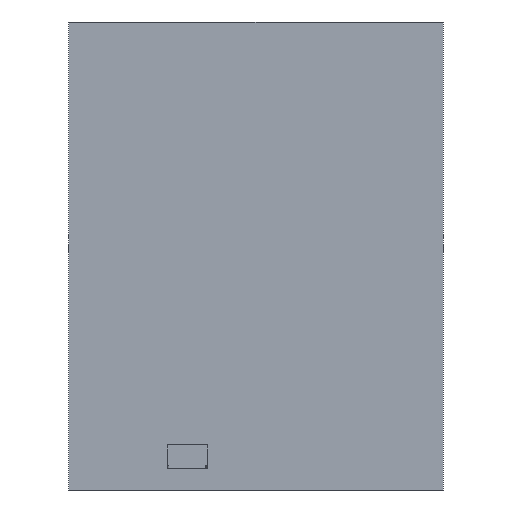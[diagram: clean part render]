
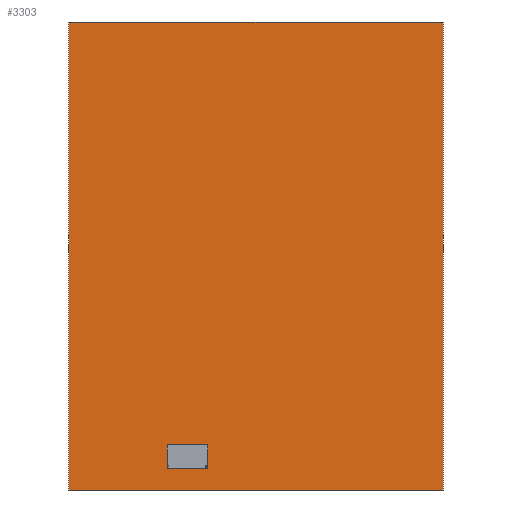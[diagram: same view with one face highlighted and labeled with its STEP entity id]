
A CAD part, front view. The second image highlights one B-rep face of the part: STEP entity #3303.
In plain terms, the highlighted planar face has unit normal (0, -1, 0).
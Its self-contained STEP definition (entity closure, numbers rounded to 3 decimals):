
#100 = PLANE('',#101);
#101 = AXIS2_PLACEMENT_3D('',#102,#103,#104);
#102 = CARTESIAN_POINT('',(52.,-127.,150.));
#103 = DIRECTION('',(0.,0.,1.));
#104 = DIRECTION('',(1.,0.,0.));
#808 = PLANE('',#809);
#809 = AXIS2_PLACEMENT_3D('',#810,#811,#812);
#810 = CARTESIAN_POINT('',(-28.5,-136.,14.44));
#811 = DIRECTION('',(0.,0.,1.));
#812 = DIRECTION('',(1.,0.,0.));
#834 = PLANE('',#835);
#835 = AXIS2_PLACEMENT_3D('',#836,#837,#838);
#836 = CARTESIAN_POINT('',(-28.5,-136.,6.94));
#837 = DIRECTION('',(1.,0.,0.));
#838 = DIRECTION('',(0.,0.,1.));
#860 = PLANE('',#861);
#861 = AXIS2_PLACEMENT_3D('',#862,#863,#864);
#862 = CARTESIAN_POINT('',(-28.5,-136.,6.94));
#863 = DIRECTION('',(0.,0.,1.));
#864 = DIRECTION('',(1.,0.,0.));
#884 = PLANE('',#885);
#885 = AXIS2_PLACEMENT_3D('',#886,#887,#888);
#886 = CARTESIAN_POINT('',(-15.5,-136.,6.94));
#887 = DIRECTION('',(1.,0.,0.));
#888 = DIRECTION('',(0.,0.,1.));
#1100 = VERTEX_POINT('',#1101);
#1101 = CARTESIAN_POINT('',(-60.,-133.,150.));
#1115 = PLANE('',#1116);
#1116 = AXIS2_PLACEMENT_3D('',#1117,#1118,#1119);
#1117 = CARTESIAN_POINT('',(-60.,-133.,0.));
#1118 = DIRECTION('',(1.,0.,0.));
#1119 = DIRECTION('',(0.,0.,1.));
#1127 = EDGE_CURVE('',#1100,#1128,#1130,.T.);
#1128 = VERTEX_POINT('',#1129);
#1129 = CARTESIAN_POINT('',(60.,-133.,150.));
#1130 = SURFACE_CURVE('',#1131,(#1135,#1142),.PCURVE_S1.);
#1131 = LINE('',#1132,#1133);
#1132 = CARTESIAN_POINT('',(-60.,-133.,150.));
#1133 = VECTOR('',#1134,1.);
#1134 = DIRECTION('',(1.,0.,0.));
#1135 = PCURVE('',#100,#1136);
#1136 = DEFINITIONAL_REPRESENTATION('',(#1137),#1141);
#1137 = LINE('',#1138,#1139);
#1138 = CARTESIAN_POINT('',(-112.,-6.));
#1139 = VECTOR('',#1140,1.);
#1140 = DIRECTION('',(1.,0.));
#1141 = ( GEOMETRIC_REPRESENTATION_CONTEXT(2) 
PARAMETRIC_REPRESENTATION_CONTEXT() REPRESENTATION_CONTEXT('2D SPACE',''
  ) );
#1142 = PCURVE('',#1143,#1148);
#1143 = PLANE('',#1144);
#1144 = AXIS2_PLACEMENT_3D('',#1145,#1146,#1147);
#1145 = CARTESIAN_POINT('',(-60.,-133.,0.));
#1146 = DIRECTION('',(0.,1.,0.));
#1147 = DIRECTION('',(0.,0.,1.));
#1148 = DEFINITIONAL_REPRESENTATION('',(#1149),#1153);
#1149 = LINE('',#1150,#1151);
#1150 = CARTESIAN_POINT('',(150.,0.));
#1151 = VECTOR('',#1152,1.);
#1152 = DIRECTION('',(0.,1.));
#1153 = ( GEOMETRIC_REPRESENTATION_CONTEXT(2) 
PARAMETRIC_REPRESENTATION_CONTEXT() REPRESENTATION_CONTEXT('2D SPACE',''
  ) );
#1171 = PLANE('',#1172);
#1172 = AXIS2_PLACEMENT_3D('',#1173,#1174,#1175);
#1173 = CARTESIAN_POINT('',(60.,-133.,0.));
#1174 = DIRECTION('',(1.,0.,0.));
#1175 = DIRECTION('',(0.,0.,1.));
#2759 = VERTEX_POINT('',#2760);
#2760 = CARTESIAN_POINT('',(-28.5,-133.,14.44));
#2781 = EDGE_CURVE('',#2759,#2782,#2784,.T.);
#2782 = VERTEX_POINT('',#2783);
#2783 = CARTESIAN_POINT('',(-15.5,-133.,14.44));
#2784 = SURFACE_CURVE('',#2785,(#2789,#2795),.PCURVE_S1.);
#2785 = LINE('',#2786,#2787);
#2786 = CARTESIAN_POINT('',(-44.25,-133.,14.44));
#2787 = VECTOR('',#2788,1.);
#2788 = DIRECTION('',(1.,0.,0.));
#2789 = PCURVE('',#808,#2790);
#2790 = DEFINITIONAL_REPRESENTATION('',(#2791),#2794);
#2791 = B_SPLINE_CURVE_WITH_KNOTS('',1,(#2792,#2793),.UNSPECIFIED.,.F.,
  .F.,(2,2),(15.75,28.75),.PIECEWISE_BEZIER_KNOTS.);
#2792 = CARTESIAN_POINT('',(0.,3.));
#2793 = CARTESIAN_POINT('',(13.,3.));
#2794 = ( GEOMETRIC_REPRESENTATION_CONTEXT(2) 
PARAMETRIC_REPRESENTATION_CONTEXT() REPRESENTATION_CONTEXT('2D SPACE',''
  ) );
#2795 = PCURVE('',#1143,#2796);
#2796 = DEFINITIONAL_REPRESENTATION('',(#2797),#2800);
#2797 = B_SPLINE_CURVE_WITH_KNOTS('',1,(#2798,#2799),.UNSPECIFIED.,.F.,
  .F.,(2,2),(15.75,28.75),.PIECEWISE_BEZIER_KNOTS.);
#2798 = CARTESIAN_POINT('',(14.44,31.5));
#2799 = CARTESIAN_POINT('',(14.44,44.5));
#2800 = ( GEOMETRIC_REPRESENTATION_CONTEXT(2) 
PARAMETRIC_REPRESENTATION_CONTEXT() REPRESENTATION_CONTEXT('2D SPACE',''
  ) );
#2828 = EDGE_CURVE('',#2759,#2829,#2831,.T.);
#2829 = VERTEX_POINT('',#2830);
#2830 = CARTESIAN_POINT('',(-28.5,-133.,6.94));
#2831 = SURFACE_CURVE('',#2832,(#2836,#2842),.PCURVE_S1.);
#2832 = LINE('',#2833,#2834);
#2833 = CARTESIAN_POINT('',(-28.5,-133.,3.47));
#2834 = VECTOR('',#2835,1.);
#2835 = DIRECTION('',(0.,0.,-1.));
#2836 = PCURVE('',#834,#2837);
#2837 = DEFINITIONAL_REPRESENTATION('',(#2838),#2841);
#2838 = B_SPLINE_CURVE_WITH_KNOTS('',1,(#2839,#2840),.UNSPECIFIED.,.F.,
  .F.,(2,2),(-10.97,-3.47),.PIECEWISE_BEZIER_KNOTS.);
#2839 = CARTESIAN_POINT('',(7.5,-3.));
#2840 = CARTESIAN_POINT('',(0.,-3.));
#2841 = ( GEOMETRIC_REPRESENTATION_CONTEXT(2) 
PARAMETRIC_REPRESENTATION_CONTEXT() REPRESENTATION_CONTEXT('2D SPACE',''
  ) );
#2842 = PCURVE('',#1143,#2843);
#2843 = DEFINITIONAL_REPRESENTATION('',(#2844),#2847);
#2844 = B_SPLINE_CURVE_WITH_KNOTS('',1,(#2845,#2846),.UNSPECIFIED.,.F.,
  .F.,(2,2),(-10.97,-3.47),.PIECEWISE_BEZIER_KNOTS.);
#2845 = CARTESIAN_POINT('',(14.44,31.5));
#2846 = CARTESIAN_POINT('',(6.94,31.5));
#2847 = ( GEOMETRIC_REPRESENTATION_CONTEXT(2) 
PARAMETRIC_REPRESENTATION_CONTEXT() REPRESENTATION_CONTEXT('2D SPACE',''
  ) );
#2875 = EDGE_CURVE('',#2782,#2876,#2878,.T.);
#2876 = VERTEX_POINT('',#2877);
#2877 = CARTESIAN_POINT('',(-15.5,-133.,6.94));
#2878 = SURFACE_CURVE('',#2879,(#2883,#2889),.PCURVE_S1.);
#2879 = LINE('',#2880,#2881);
#2880 = CARTESIAN_POINT('',(-15.5,-133.,3.47));
#2881 = VECTOR('',#2882,1.);
#2882 = DIRECTION('',(0.,0.,-1.));
#2883 = PCURVE('',#884,#2884);
#2884 = DEFINITIONAL_REPRESENTATION('',(#2885),#2888);
#2885 = B_SPLINE_CURVE_WITH_KNOTS('',1,(#2886,#2887),.UNSPECIFIED.,.F.,
  .F.,(2,2),(-10.97,-3.47),.PIECEWISE_BEZIER_KNOTS.);
#2886 = CARTESIAN_POINT('',(7.5,-3.));
#2887 = CARTESIAN_POINT('',(0.,-3.));
#2888 = ( GEOMETRIC_REPRESENTATION_CONTEXT(2) 
PARAMETRIC_REPRESENTATION_CONTEXT() REPRESENTATION_CONTEXT('2D SPACE',''
  ) );
#2889 = PCURVE('',#1143,#2890);
#2890 = DEFINITIONAL_REPRESENTATION('',(#2891),#2894);
#2891 = B_SPLINE_CURVE_WITH_KNOTS('',1,(#2892,#2893),.UNSPECIFIED.,.F.,
  .F.,(2,2),(-10.97,-3.47),.PIECEWISE_BEZIER_KNOTS.);
#2892 = CARTESIAN_POINT('',(14.44,44.5));
#2893 = CARTESIAN_POINT('',(6.94,44.5));
#2894 = ( GEOMETRIC_REPRESENTATION_CONTEXT(2) 
PARAMETRIC_REPRESENTATION_CONTEXT() REPRESENTATION_CONTEXT('2D SPACE',''
  ) );
#2922 = EDGE_CURVE('',#2829,#2876,#2923,.T.);
#2923 = SURFACE_CURVE('',#2924,(#2928,#2934),.PCURVE_S1.);
#2924 = LINE('',#2925,#2926);
#2925 = CARTESIAN_POINT('',(-44.25,-133.,6.94));
#2926 = VECTOR('',#2927,1.);
#2927 = DIRECTION('',(1.,0.,0.));
#2928 = PCURVE('',#860,#2929);
#2929 = DEFINITIONAL_REPRESENTATION('',(#2930),#2933);
#2930 = B_SPLINE_CURVE_WITH_KNOTS('',1,(#2931,#2932),.UNSPECIFIED.,.F.,
  .F.,(2,2),(15.75,28.75),.PIECEWISE_BEZIER_KNOTS.);
#2931 = CARTESIAN_POINT('',(0.,3.));
#2932 = CARTESIAN_POINT('',(13.,3.));
#2933 = ( GEOMETRIC_REPRESENTATION_CONTEXT(2) 
PARAMETRIC_REPRESENTATION_CONTEXT() REPRESENTATION_CONTEXT('2D SPACE',''
  ) );
#2934 = PCURVE('',#1143,#2935);
#2935 = DEFINITIONAL_REPRESENTATION('',(#2936),#2939);
#2936 = B_SPLINE_CURVE_WITH_KNOTS('',1,(#2937,#2938),.UNSPECIFIED.,.F.,
  .F.,(2,2),(15.75,28.75),.PIECEWISE_BEZIER_KNOTS.);
#2937 = CARTESIAN_POINT('',(6.94,31.5));
#2938 = CARTESIAN_POINT('',(6.94,44.5));
#2939 = ( GEOMETRIC_REPRESENTATION_CONTEXT(2) 
PARAMETRIC_REPRESENTATION_CONTEXT() REPRESENTATION_CONTEXT('2D SPACE',''
  ) );
#3032 = PLANE('',#3033);
#3033 = AXIS2_PLACEMENT_3D('',#3034,#3035,#3036);
#3034 = CARTESIAN_POINT('',(-60.,-133.,0.));
#3035 = DIRECTION('',(0.,0.,1.));
#3036 = DIRECTION('',(1.,0.,0.));
#3258 = EDGE_CURVE('',#3259,#1128,#3261,.T.);
#3259 = VERTEX_POINT('',#3260);
#3260 = CARTESIAN_POINT('',(60.,-133.,0.));
#3261 = SURFACE_CURVE('',#3262,(#3266,#3273),.PCURVE_S1.);
#3262 = LINE('',#3263,#3264);
#3263 = CARTESIAN_POINT('',(60.,-133.,0.));
#3264 = VECTOR('',#3265,1.);
#3265 = DIRECTION('',(0.,0.,1.));
#3266 = PCURVE('',#1171,#3267);
#3267 = DEFINITIONAL_REPRESENTATION('',(#3268),#3272);
#3268 = LINE('',#3269,#3270);
#3269 = CARTESIAN_POINT('',(0.,0.));
#3270 = VECTOR('',#3271,1.);
#3271 = DIRECTION('',(1.,0.));
#3272 = ( GEOMETRIC_REPRESENTATION_CONTEXT(2) 
PARAMETRIC_REPRESENTATION_CONTEXT() REPRESENTATION_CONTEXT('2D SPACE',''
  ) );
#3273 = PCURVE('',#1143,#3274);
#3274 = DEFINITIONAL_REPRESENTATION('',(#3275),#3279);
#3275 = LINE('',#3276,#3277);
#3276 = CARTESIAN_POINT('',(0.,120.));
#3277 = VECTOR('',#3278,1.);
#3278 = DIRECTION('',(1.,0.));
#3279 = ( GEOMETRIC_REPRESENTATION_CONTEXT(2) 
PARAMETRIC_REPRESENTATION_CONTEXT() REPRESENTATION_CONTEXT('2D SPACE',''
  ) );
#3303 = ADVANCED_FACE('',(#3304,#3352),#1143,.F.);
#3304 = FACE_BOUND('',#3305,.F.);
#3305 = EDGE_LOOP('',(#3306,#3329,#3350,#3351));
#3306 = ORIENTED_EDGE('',*,*,#3307,.F.);
#3307 = EDGE_CURVE('',#3308,#3259,#3310,.T.);
#3308 = VERTEX_POINT('',#3309);
#3309 = CARTESIAN_POINT('',(-60.,-133.,0.));
#3310 = SURFACE_CURVE('',#3311,(#3315,#3322),.PCURVE_S1.);
#3311 = LINE('',#3312,#3313);
#3312 = CARTESIAN_POINT('',(-60.,-133.,0.));
#3313 = VECTOR('',#3314,1.);
#3314 = DIRECTION('',(1.,0.,0.));
#3315 = PCURVE('',#1143,#3316);
#3316 = DEFINITIONAL_REPRESENTATION('',(#3317),#3321);
#3317 = LINE('',#3318,#3319);
#3318 = CARTESIAN_POINT('',(0.,0.));
#3319 = VECTOR('',#3320,1.);
#3320 = DIRECTION('',(0.,1.));
#3321 = ( GEOMETRIC_REPRESENTATION_CONTEXT(2) 
PARAMETRIC_REPRESENTATION_CONTEXT() REPRESENTATION_CONTEXT('2D SPACE',''
  ) );
#3322 = PCURVE('',#3032,#3323);
#3323 = DEFINITIONAL_REPRESENTATION('',(#3324),#3328);
#3324 = LINE('',#3325,#3326);
#3325 = CARTESIAN_POINT('',(0.,0.));
#3326 = VECTOR('',#3327,1.);
#3327 = DIRECTION('',(1.,0.));
#3328 = ( GEOMETRIC_REPRESENTATION_CONTEXT(2) 
PARAMETRIC_REPRESENTATION_CONTEXT() REPRESENTATION_CONTEXT('2D SPACE',''
  ) );
#3329 = ORIENTED_EDGE('',*,*,#3330,.T.);
#3330 = EDGE_CURVE('',#3308,#1100,#3331,.T.);
#3331 = SURFACE_CURVE('',#3332,(#3336,#3343),.PCURVE_S1.);
#3332 = LINE('',#3333,#3334);
#3333 = CARTESIAN_POINT('',(-60.,-133.,0.));
#3334 = VECTOR('',#3335,1.);
#3335 = DIRECTION('',(0.,0.,1.));
#3336 = PCURVE('',#1143,#3337);
#3337 = DEFINITIONAL_REPRESENTATION('',(#3338),#3342);
#3338 = LINE('',#3339,#3340);
#3339 = CARTESIAN_POINT('',(0.,0.));
#3340 = VECTOR('',#3341,1.);
#3341 = DIRECTION('',(1.,0.));
#3342 = ( GEOMETRIC_REPRESENTATION_CONTEXT(2) 
PARAMETRIC_REPRESENTATION_CONTEXT() REPRESENTATION_CONTEXT('2D SPACE',''
  ) );
#3343 = PCURVE('',#1115,#3344);
#3344 = DEFINITIONAL_REPRESENTATION('',(#3345),#3349);
#3345 = LINE('',#3346,#3347);
#3346 = CARTESIAN_POINT('',(0.,0.));
#3347 = VECTOR('',#3348,1.);
#3348 = DIRECTION('',(1.,0.));
#3349 = ( GEOMETRIC_REPRESENTATION_CONTEXT(2) 
PARAMETRIC_REPRESENTATION_CONTEXT() REPRESENTATION_CONTEXT('2D SPACE',''
  ) );
#3350 = ORIENTED_EDGE('',*,*,#1127,.T.);
#3351 = ORIENTED_EDGE('',*,*,#3258,.F.);
#3352 = FACE_BOUND('',#3353,.F.);
#3353 = EDGE_LOOP('',(#3354,#3355,#3356,#3357));
#3354 = ORIENTED_EDGE('',*,*,#2781,.F.);
#3355 = ORIENTED_EDGE('',*,*,#2828,.T.);
#3356 = ORIENTED_EDGE('',*,*,#2922,.T.);
#3357 = ORIENTED_EDGE('',*,*,#2875,.F.);
